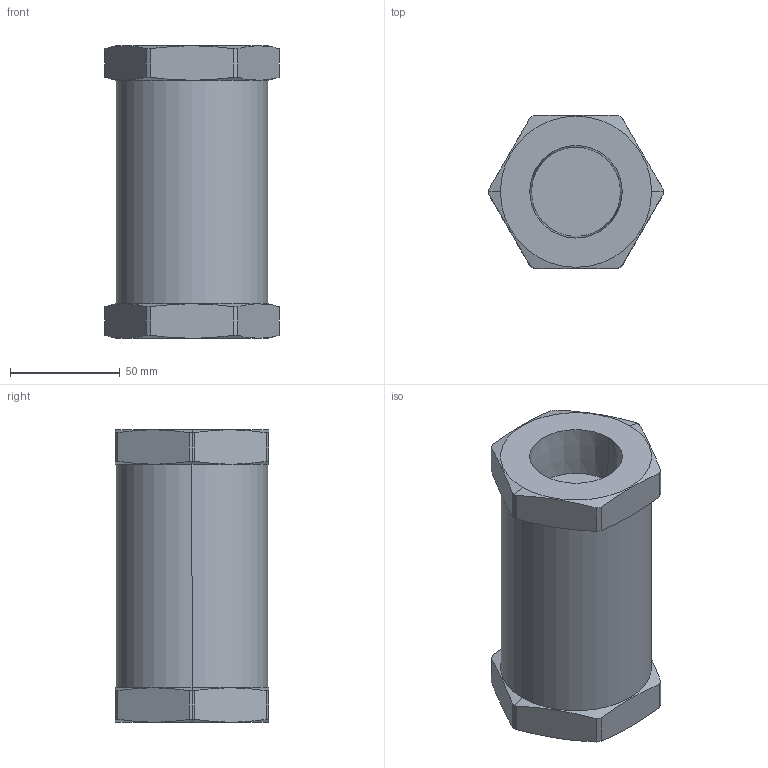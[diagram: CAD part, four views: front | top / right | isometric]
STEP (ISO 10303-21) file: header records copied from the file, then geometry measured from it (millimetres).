
FILE_DESCRIPTION (( 'STEP AP203' ), '1' );
FILE_NAME ('CV-1500B-__-__.STEP', '2011-11-04T21:11:18', ( 'Tim' ), ( 'Microsoft' ), 'SwSTEP 2.0', 'SolidWorks 2011', '' );
FILE_SCHEMA (( 'CONFIG_CONTROL_DESIGN' ));
Length unit declared in the file: inch
Products named in the file (1): CV-1500B-__-__
Bounding box: 79.34 x 69.85 x 133.35 mm (x, y, z)
Volume: 447166.2 mm3; surface area: 44499.4 mm2
Topology: 1 solids, 1 shells, 44 faces, 112 edges, 72 vertices
Faces by surface type: cylinder 16, plane 16, cone 12
Entity records: 1571 total; most frequent: CARTESIAN_POINT 429, DIRECTION 226, ORIENTED_EDGE 224, EDGE_CURVE 112, AXIS2_PLACEMENT_3D 93, VERTEX_POINT 72, CIRCLE 48, EDGE_LOOP 46
